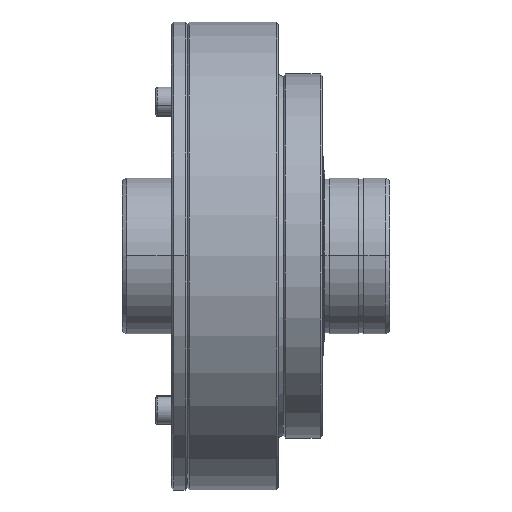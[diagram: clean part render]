
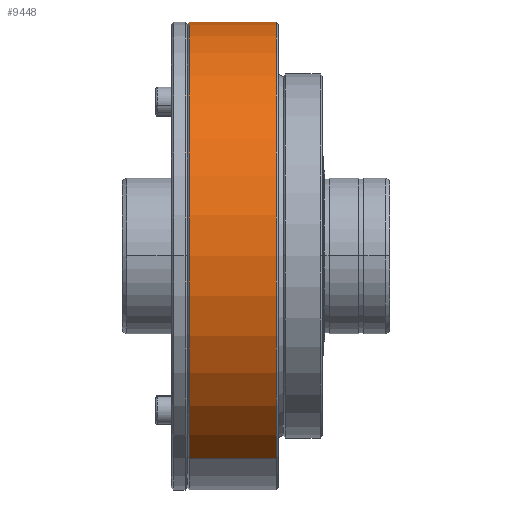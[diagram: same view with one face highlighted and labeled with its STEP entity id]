
A CAD part, top view. The second image highlights one B-rep face of the part: STEP entity #9448.
In plain terms, the highlighted cylindrical face has radius 45 mm (diameter 90 mm), a partial arc.
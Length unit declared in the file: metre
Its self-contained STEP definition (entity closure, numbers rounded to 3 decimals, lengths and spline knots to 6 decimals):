
#1261 = EDGE_CURVE ( 'NONE', #14212, #1467, #5463, .T. ) ;
#1467 = VERTEX_POINT ( 'NONE', #27203 ) ;
#2127 = DIRECTION ( 'NONE',  ( -1., 0., 0. ) ) ;
#2633 = CIRCLE ( 'NONE', #26548, 0.045 ) ;
#2644 = ORIENTED_EDGE ( 'NONE', *, *, #1261, .T. ) ;
#2841 = DIRECTION ( 'NONE',  ( 0., 0.866, -0.5 ) ) ;
#3387 = VERTEX_POINT ( 'NONE', #5631 ) ;
#5463 = CIRCLE ( 'NONE', #12897, 0.045 ) ;
#5631 = CARTESIAN_POINT ( 'NONE',  ( 0.0129, 0.038971, -0.0225 ) ) ;
#7325 = EDGE_LOOP ( 'NONE', ( #22230, #2644, #11689, #17514 ) ) ;
#7579 = EDGE_CURVE ( 'NONE', #3387, #28757, #2633, .T. ) ;
#8232 = CYLINDRICAL_SURFACE ( 'NONE', #9890, 0.045 ) ;
#8483 = EDGE_CURVE ( 'NONE', #14212, #28757, #21962, .T. ) ;
#9448 = ADVANCED_FACE ( 'NONE', ( #24512 ), #8232, .T. ) ;
#9890 = AXIS2_PLACEMENT_3D ( 'NONE', #22170, #17189, #13229 ) ;
#10100 = DIRECTION ( 'NONE',  ( -1., 0., 0. ) ) ;
#11689 = ORIENTED_EDGE ( 'NONE', *, *, #15996, .T. ) ;
#12297 = LINE ( 'NONE', #12593, #26040 ) ;
#12593 = CARTESIAN_POINT ( 'NONE',  ( 0.009831, 0.038971, -0.0225 ) ) ;
#12897 = AXIS2_PLACEMENT_3D ( 'NONE', #16258, #18754, #14347 ) ;
#13229 = DIRECTION ( 'NONE',  ( 0., 0.866, -0.5 ) ) ;
#13236 = CARTESIAN_POINT ( 'NONE',  ( 0.0296, -0.038971, 0.0225 ) ) ;
#13290 = CARTESIAN_POINT ( 'NONE',  ( 0.009831, -0.038971, 0.0225 ) ) ;
#14212 = VERTEX_POINT ( 'NONE', #13236 ) ;
#14347 = DIRECTION ( 'NONE',  ( 0., 0.866, -0.5 ) ) ;
#15996 = EDGE_CURVE ( 'NONE', #1467, #3387, #12297, .T. ) ;
#16258 = CARTESIAN_POINT ( 'NONE',  ( 0.0296, 0., 0. ) ) ;
#17189 = DIRECTION ( 'NONE',  ( -1., 0., 0. ) ) ;
#17514 = ORIENTED_EDGE ( 'NONE', *, *, #7579, .T. ) ;
#18259 = DIRECTION ( 'NONE',  ( 1., 0., 0. ) ) ;
#18754 = DIRECTION ( 'NONE',  ( -1., 0., 0. ) ) ;
#20324 = CARTESIAN_POINT ( 'NONE',  ( 0.0129, -0.038971, 0.0225 ) ) ;
#21909 = VECTOR ( 'NONE', #2127, 1. ) ;
#21962 = LINE ( 'NONE', #13290, #21909 ) ;
#22170 = CARTESIAN_POINT ( 'NONE',  ( 0.009831, 0., 0. ) ) ;
#22230 = ORIENTED_EDGE ( 'NONE', *, *, #8483, .F. ) ;
#22960 = CARTESIAN_POINT ( 'NONE',  ( 0.0129, 0., 0. ) ) ;
#24512 = FACE_OUTER_BOUND ( 'NONE', #7325, .T. ) ;
#26040 = VECTOR ( 'NONE', #10100, 1. ) ;
#26548 = AXIS2_PLACEMENT_3D ( 'NONE', #22960, #18259, #2841 ) ;
#27203 = CARTESIAN_POINT ( 'NONE',  ( 0.0296, 0.038971, -0.0225 ) ) ;
#28757 = VERTEX_POINT ( 'NONE', #20324 ) ;
